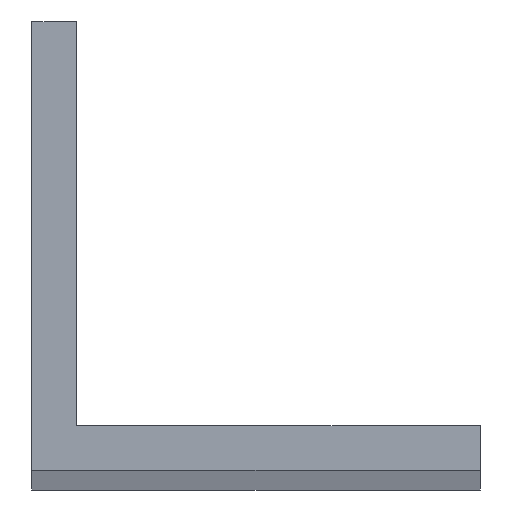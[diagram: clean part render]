
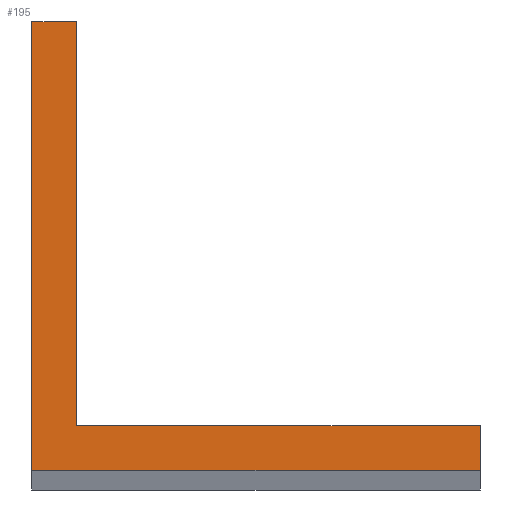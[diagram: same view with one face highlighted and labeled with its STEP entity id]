
A CAD part, top view. The second image highlights one B-rep face of the part: STEP entity #195.
In plain terms, the highlighted planar face has unit normal (0, 0, 1).
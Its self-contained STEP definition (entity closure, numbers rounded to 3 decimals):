
#3 = VERTEX_POINT ( 'NONE', #33 ) ;
#4 = VECTOR ( 'NONE', #174, 1000. ) ;
#5 = VECTOR ( 'NONE', #252, 1000. ) ;
#8 = DIRECTION ( 'NONE',  ( 1., 0., 0. ) ) ;
#10 = CARTESIAN_POINT ( 'NONE',  ( 20., 0., 250. ) ) ;
#13 = EDGE_CURVE ( 'NONE', #107, #118, #243, .T. ) ;
#14 = CARTESIAN_POINT ( 'NONE',  ( 2., 2., 250. ) ) ;
#16 = LINE ( 'NONE', #220, #95 ) ;
#19 = VECTOR ( 'NONE', #68, 1000. ) ;
#22 = CARTESIAN_POINT ( 'NONE',  ( 2., 2., 250. ) ) ;
#28 = DIRECTION ( 'NONE',  ( 0., 1., 0. ) ) ;
#30 = VERTEX_POINT ( 'NONE', #14 ) ;
#33 = CARTESIAN_POINT ( 'NONE',  ( 20., 2., 250. ) ) ;
#39 = PLANE ( 'NONE',  #244 ) ;
#41 = ORIENTED_EDGE ( 'NONE', *, *, #175, .T. ) ;
#43 = EDGE_LOOP ( 'NONE', ( #120, #78, #239, #106, #160, #41 ) ) ;
#47 = EDGE_CURVE ( 'NONE', #30, #100, #163, .T. ) ;
#48 = CARTESIAN_POINT ( 'NONE',  ( 2., 20., 250. ) ) ;
#68 = DIRECTION ( 'NONE',  ( 0., 1., 0. ) ) ;
#76 = FACE_OUTER_BOUND ( 'NONE', #43, .T. ) ;
#78 = ORIENTED_EDGE ( 'NONE', *, *, #253, .T. ) ;
#87 = CARTESIAN_POINT ( 'NONE',  ( 0., 0., 250. ) ) ;
#94 = DIRECTION ( 'NONE',  ( 0., 0., -1. ) ) ;
#95 = VECTOR ( 'NONE', #28, 1000. ) ;
#98 = LINE ( 'NONE', #148, #4 ) ;
#100 = VERTEX_POINT ( 'NONE', #126 ) ;
#106 = ORIENTED_EDGE ( 'NONE', *, *, #47, .T. ) ;
#107 = VERTEX_POINT ( 'NONE', #87 ) ;
#114 = CARTESIAN_POINT ( 'NONE',  ( 0., 20., 250. ) ) ;
#116 = LINE ( 'NONE', #22, #5 ) ;
#118 = VERTEX_POINT ( 'NONE', #172 ) ;
#120 = ORIENTED_EDGE ( 'NONE', *, *, #13, .T. ) ;
#126 = CARTESIAN_POINT ( 'NONE',  ( 2., 20., 250. ) ) ;
#130 = VECTOR ( 'NONE', #8, 1000. ) ;
#133 = EDGE_CURVE ( 'NONE', #100, #155, #98, .T. ) ;
#148 = CARTESIAN_POINT ( 'NONE',  ( 0., 20., 250. ) ) ;
#149 = CARTESIAN_POINT ( 'NONE',  ( 0., 0., 250. ) ) ;
#150 = DIRECTION ( 'NONE',  ( 0., -1., 0. ) ) ;
#152 = VECTOR ( 'NONE', #150, 1000. ) ;
#155 = VERTEX_POINT ( 'NONE', #114 ) ;
#160 = ORIENTED_EDGE ( 'NONE', *, *, #133, .T. ) ;
#163 = LINE ( 'NONE', #48, #19 ) ;
#172 = CARTESIAN_POINT ( 'NONE',  ( 20., 0., 250. ) ) ;
#174 = DIRECTION ( 'NONE',  ( -1., 0., 0. ) ) ;
#175 = EDGE_CURVE ( 'NONE', #155, #107, #191, .T. ) ;
#191 = LINE ( 'NONE', #149, #152 ) ;
#195 = ADVANCED_FACE ( 'NONE', ( #76 ), #39, .F. ) ;
#220 = CARTESIAN_POINT ( 'NONE',  ( 20., 2., 250. ) ) ;
#226 = EDGE_CURVE ( 'NONE', #3, #30, #116, .T. ) ;
#229 = CARTESIAN_POINT ( 'NONE',  ( 0., 0., 250. ) ) ;
#230 = DIRECTION ( 'NONE',  ( -1., 0., 0. ) ) ;
#239 = ORIENTED_EDGE ( 'NONE', *, *, #226, .T. ) ;
#243 = LINE ( 'NONE', #10, #130 ) ;
#244 = AXIS2_PLACEMENT_3D ( 'NONE', #229, #94, #230 ) ;
#252 = DIRECTION ( 'NONE',  ( -1., 0., 0. ) ) ;
#253 = EDGE_CURVE ( 'NONE', #118, #3, #16, .T. ) ;
